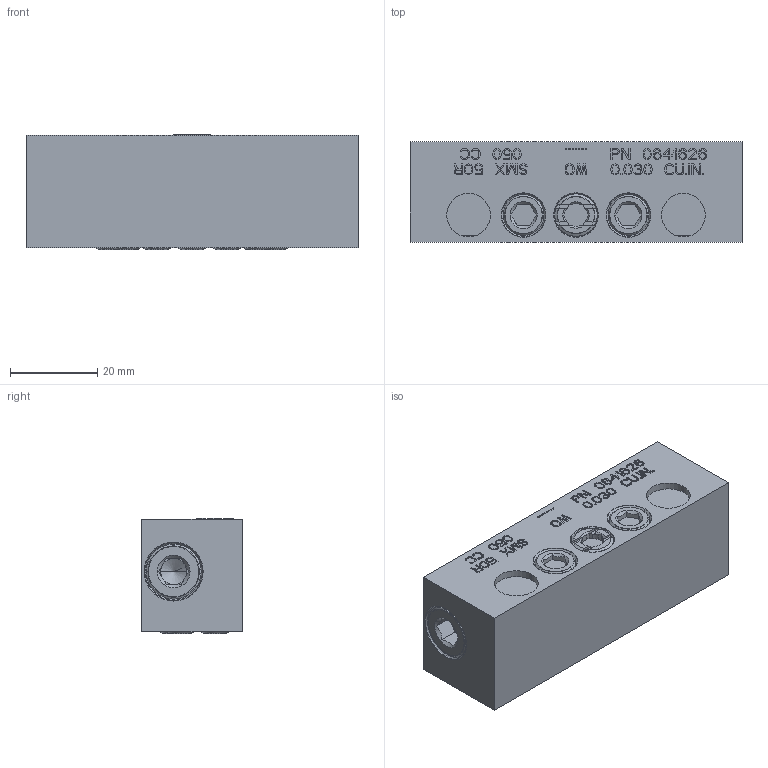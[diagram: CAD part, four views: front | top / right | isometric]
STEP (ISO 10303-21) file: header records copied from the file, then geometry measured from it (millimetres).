
FILE_DESCRIPTION((''),'2;1');
FILE_NAME('0641626_SMX_50R','2023-07-21T12:26:15',('pietro.masciave'),(''),'CREO PARAMETRIC BY PTC INC, 2022281','CREO PARAMETRIC BY PTC INC, 2022281','');
FILE_SCHEMA(('CONFIG_CONTROL_DESIGN'));
Length unit declared in the file: millimetre
Products named in the file (1): 0641626_SMX_50R
Bounding box: 76 x 23 x 26.33 mm (x, y, z)
Volume: 43965.1 mm3; surface area: 12641 mm2
Topology: 1 solids, 14 shells, 1415 faces, 3929 edges, 2611 vertices
Faces by surface type: plane 1241, cylinder 108, cone 44, torus 22
Entity records: 45595 total; most frequent: CARTESIAN_POINT 9083, ORIENTED_EDGE 7810, DIRECTION 7048, EDGE_CURVE 3925, VECTOR 3496, LINE 3496, VERTEX_POINT 2611, AXIS2_PLACEMENT_3D 1776
